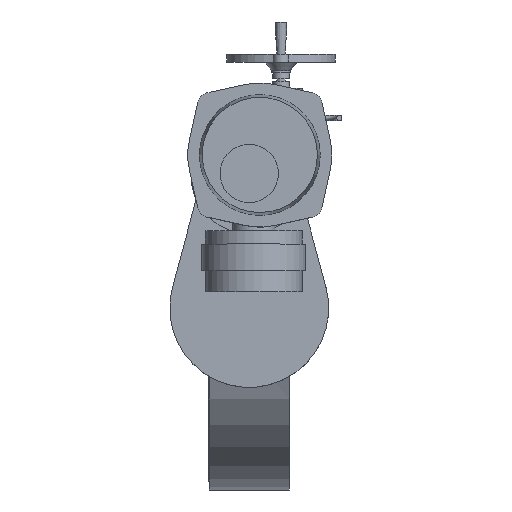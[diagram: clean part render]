
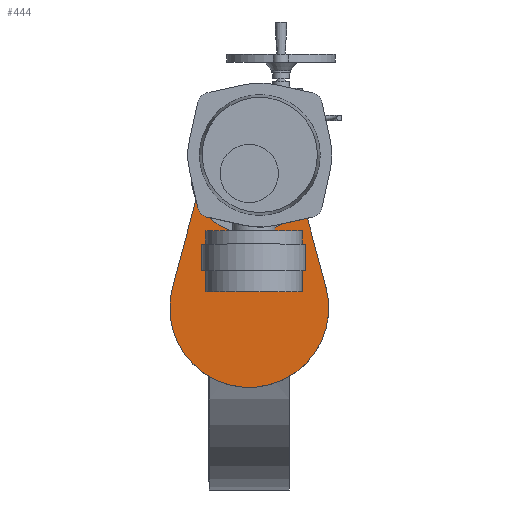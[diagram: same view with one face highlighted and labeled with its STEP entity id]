
A CAD part, top view. The second image highlights one B-rep face of the part: STEP entity #444.
In plain terms, the highlighted planar face has unit normal (0, 0, 1).
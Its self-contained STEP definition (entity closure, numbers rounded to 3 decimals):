
#444=ADVANCED_FACE('',(#8399),#8401,.F.);
#8399=FACE_BOUND('',#8400,.T.);
#8400=EDGE_LOOP('',(#14645,#14646,#14647,#14648,#14649));
#8401=PLANE('',#8402);
#8402=AXIS2_PLACEMENT_3D('',#8403,#8404,#8405);
#8403=CARTESIAN_POINT('',(20.,288.,665.));
#8404=DIRECTION('',(0.,0.,-1.));
#8405=DIRECTION('',(0.,1.,0.));
#14645=ORIENTED_EDGE('',*,*,#19413,.T.);
#14646=ORIENTED_EDGE('',*,*,#19414,.T.);
#14647=ORIENTED_EDGE('',*,*,#19415,.F.);
#14648=ORIENTED_EDGE('',*,*,#19386,.F.);
#14649=ORIENTED_EDGE('',*,*,#19416,.F.);
#19386=EDGE_CURVE('',#21874,#21875,#21876,.T.);
#19413=EDGE_CURVE('',#21928,#21929,#21930,.F.);
#19414=EDGE_CURVE('',#21929,#21931,#21932,.F.);
#19415=EDGE_CURVE('',#21875,#21931,#21933,.T.);
#19416=EDGE_CURVE('',#21928,#21874,#21934,.T.);
#21874=VERTEX_POINT('',#26341);
#21875=VERTEX_POINT('',#26342);
#21876=CIRCLE('',#26343,150.);
#21928=VERTEX_POINT('',#26602);
#21929=VERTEX_POINT('',#26603);
#21930=CIRCLE('',#26604,85.);
#21931=VERTEX_POINT('',#26608);
#21932=CIRCLE('',#26609,85.);
#21933=LINE('',#26613,#26614);
#21934=LINE('',#26616,#26617);
#26341=CARTESIAN_POINT('',(144.841,39.,665.));
#26342=CARTESIAN_POINT('',(-144.841,39.,665.));
#26343=AXIS2_PLACEMENT_3D('',#26344,#26345,#26346);
#26344=CARTESIAN_POINT('',(0.,0.,665.));
#26345=DIRECTION('',(0.,0.,-1.));
#26346=DIRECTION('',(0.966,0.26,0.));
#26602=CARTESIAN_POINT('',(82.077,272.1,665.));
#26603=CARTESIAN_POINT('',(0.,165.,665.));
#26604=AXIS2_PLACEMENT_3D('',#26605,#26606,#26607);
#26605=CARTESIAN_POINT('',(0.,250.,665.));
#26606=DIRECTION('',(0.,0.,1.));
#26607=DIRECTION('',(0.,-1.,0.));
#26608=CARTESIAN_POINT('',(-82.077,272.1,665.));
#26609=AXIS2_PLACEMENT_3D('',#26610,#26611,#26612);
#26610=CARTESIAN_POINT('',(0.,250.,665.));
#26611=DIRECTION('',(0.,0.,1.));
#26612=DIRECTION('',(-0.966,0.26,0.));
#26613=CARTESIAN_POINT('',(-144.841,39.,665.));
#26614=VECTOR('',#26615,1.);
#26615=DIRECTION('',(0.26,0.966,0.));
#26616=CARTESIAN_POINT('',(82.077,272.1,665.));
#26617=VECTOR('',#26618,1.);
#26618=DIRECTION('',(0.26,-0.966,0.));
